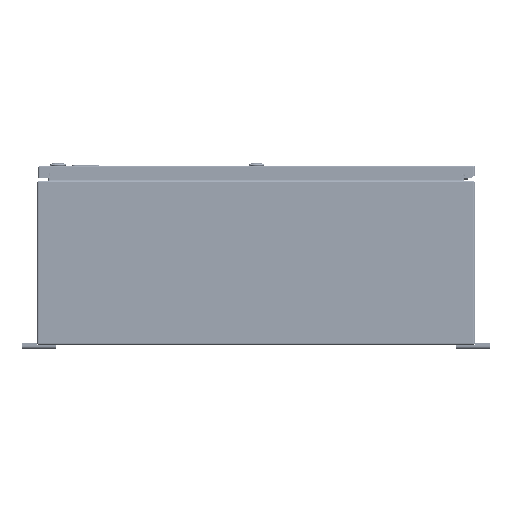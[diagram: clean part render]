
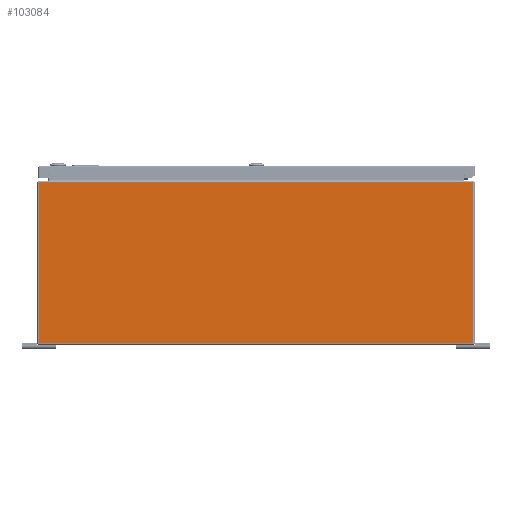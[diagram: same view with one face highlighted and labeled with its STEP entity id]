
A CAD part, left-side view. The second image highlights one B-rep face of the part: STEP entity #103084.
In plain terms, the highlighted planar face has unit normal (-1, 0, 0).
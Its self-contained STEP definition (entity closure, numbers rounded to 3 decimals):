
#6326=PLANE('',#110422);
#8953=LINE('',#145694,#17040);
#8954=LINE('',#145698,#17041);
#8955=LINE('',#145700,#17042);
#8956=LINE('',#145702,#17043);
#8957=LINE('',#145704,#17044);
#8958=LINE('',#145705,#17045);
#17040=VECTOR('',#119581,0.394);
#17041=VECTOR('',#119586,0.394);
#17042=VECTOR('',#119587,0.394);
#17043=VECTOR('',#119588,0.394);
#17044=VECTOR('',#119589,0.394);
#17045=VECTOR('',#119590,0.394);
#26763=FACE_OUTER_BOUND('',#32887,.T.);
#32887=EDGE_LOOP('',(#69895,#69896,#69897,#69898,#69899,#69900));
#43451=VERTEX_POINT('',#145676);
#43458=VERTEX_POINT('',#145693);
#43459=VERTEX_POINT('',#145697);
#43460=VERTEX_POINT('',#145699);
#43461=VERTEX_POINT('',#145701);
#43462=VERTEX_POINT('',#145703);
#53787=EDGE_CURVE('',#43451,#43458,#8953,.T.);
#53789=EDGE_CURVE('',#43459,#43451,#8954,.T.);
#53790=EDGE_CURVE('',#43459,#43460,#8955,.T.);
#53791=EDGE_CURVE('',#43461,#43460,#8956,.T.);
#53792=EDGE_CURVE('',#43462,#43461,#8957,.T.);
#53793=EDGE_CURVE('',#43462,#43458,#8958,.T.);
#69895=ORIENTED_EDGE('',*,*,#53789,.F.);
#69896=ORIENTED_EDGE('',*,*,#53790,.T.);
#69897=ORIENTED_EDGE('',*,*,#53791,.F.);
#69898=ORIENTED_EDGE('',*,*,#53792,.F.);
#69899=ORIENTED_EDGE('',*,*,#53793,.T.);
#69900=ORIENTED_EDGE('',*,*,#53787,.F.);
#103084=ADVANCED_FACE('',(#26763),#6326,.F.);
#110422=AXIS2_PLACEMENT_3D('',#145696,#119584,#119585);
#119581=DIRECTION('',(0.,0.,-1.));
#119584=DIRECTION('center_axis',(1.,0.,0.));
#119585=DIRECTION('ref_axis',(0.,0.,-1.));
#119586=DIRECTION('',(0.,-1.,0.));
#119587=DIRECTION('',(0.,1.,0.));
#119588=DIRECTION('',(0.,-1.,0.));
#119589=DIRECTION('',(0.,0.,1.));
#119590=DIRECTION('',(0.,-1.,0.));
#145676=CARTESIAN_POINT('',(-27.,-15.901,11.901));
#145693=CARTESIAN_POINT('',(-27.,-15.901,0.099));
#145694=CARTESIAN_POINT('',(-27.,-15.901,6.));
#145696=CARTESIAN_POINT('Origin',(-27.,0.,6.));
#145697=CARTESIAN_POINT('',(-27.,-15.126,11.901));
#145698=CARTESIAN_POINT('',(-27.,-7.975,11.901));
#145699=CARTESIAN_POINT('',(-27.,15.126,11.901));
#145700=CARTESIAN_POINT('',(-27.,7.955,11.901));
#145701=CARTESIAN_POINT('',(-27.,15.901,11.901));
#145702=CARTESIAN_POINT('',(-27.,-7.975,11.901));
#145703=CARTESIAN_POINT('',(-27.,15.901,0.099));
#145704=CARTESIAN_POINT('',(-27.,15.901,6.));
#145705=CARTESIAN_POINT('',(-27.,8.,0.099));
